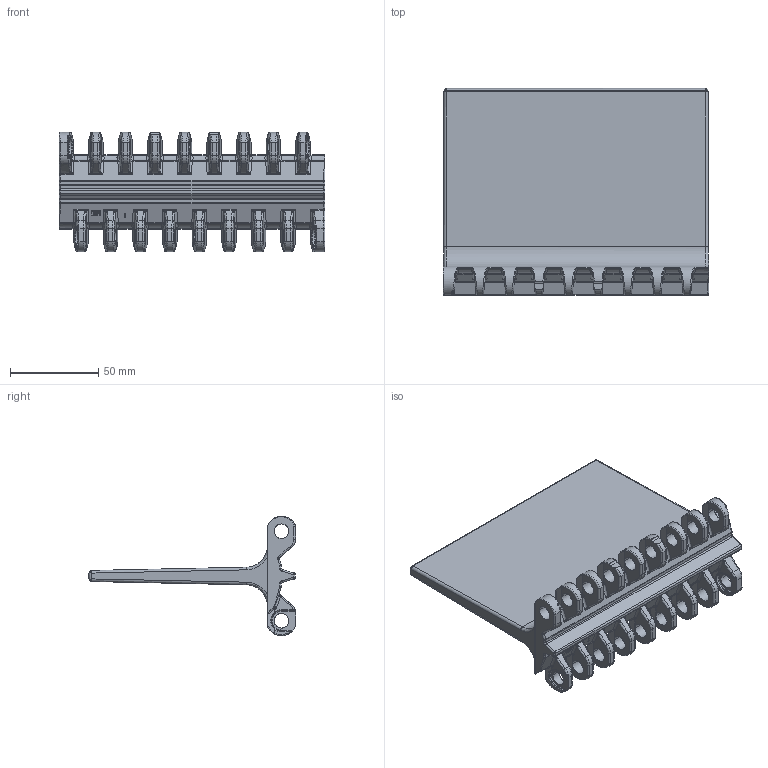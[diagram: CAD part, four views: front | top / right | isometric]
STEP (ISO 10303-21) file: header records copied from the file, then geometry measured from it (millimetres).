
FILE_DESCRIPTION((''),'2;1');
FILE_NAME('P270','2009-08-28T',('jas'),(''),'PRO/ENGINEER BY PARAMETRIC TECHNOLOGY CORPORATION, 2008490','PRO/ENGINEER BY PARAMETRIC TECHNOLOGY CORPORATION, 2008490','');
FILE_SCHEMA(('AUTOMOTIVE_DESIGN { 1 0 10303 214 1 1 1 1 }'));
Products named in the file (1): P270
Bounding box: 151 x 117.59 x 67.8 mm (x, y, z)
Volume: 201807.3 mm3; surface area: 58801.4 mm2
Topology: 1 solids, 1 shells, 1513 faces, 3963 edges, 2442 vertices
Faces by surface type: bspline 715, cylinder 404, plane 368, torus 14, sphere 12
Entity records: 132794 total; most frequent: CARTESIAN_POINT 101791, ORIENTED_EDGE 7926, DIRECTION 4390, EDGE_CURVE 3963, VERTEX_POINT 2442, B_SPLINE_CURVE_WITH_KNOTS 1886, EDGE_LOOP 1539, AXIS2_PLACEMENT_3D 1515
